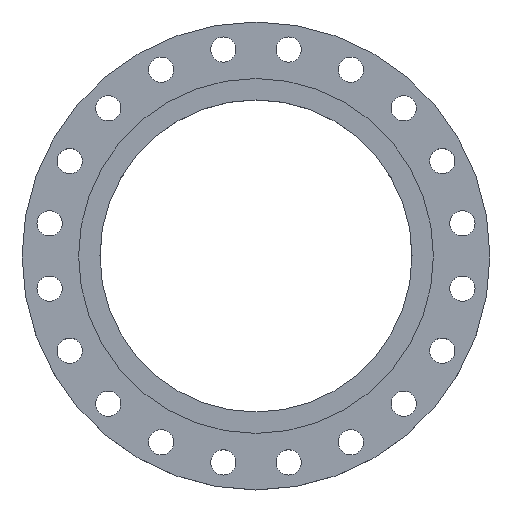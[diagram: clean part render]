
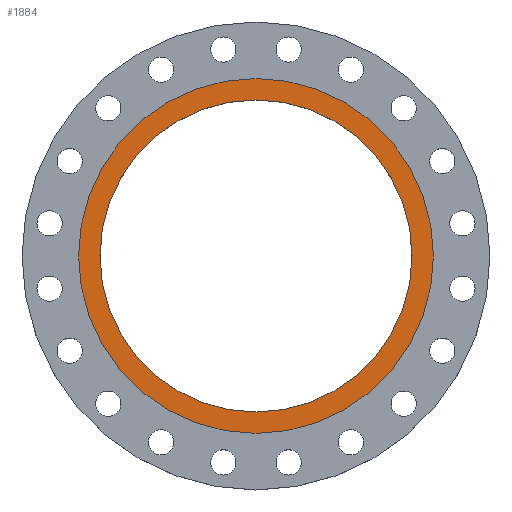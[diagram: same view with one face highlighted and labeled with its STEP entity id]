
A CAD part, top view. The second image highlights one B-rep face of the part: STEP entity #1884.
In plain terms, the highlighted planar face has unit normal (0, 0, 1).
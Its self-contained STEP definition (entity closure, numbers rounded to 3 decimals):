
#119 = DIRECTION ( 'NONE',  ( 1., 0., 0. ) ) ;
#120 = DIRECTION ( 'NONE',  ( 0., 0., 1. ) ) ;
#121 = CARTESIAN_POINT ( 'NONE',  ( 0., 0., 0. ) ) ;
#122 = PLANE ( 'NONE',  #1590 ) ;
#124 = FACE_OUTER_BOUND ( 'NONE', #1704, .T. ) ;
#126 = FACE_BOUND ( 'NONE', #1334, .T. ) ;
#128 = CARTESIAN_POINT ( 'NONE',  ( 337.5, 0., 0. ) ) ;
#142 = CARTESIAN_POINT ( 'NONE',  ( 296.752, 0., 0. ) ) ;
#235 = CARTESIAN_POINT ( 'NONE',  ( -296.752, 0., 0. ) ) ;
#259 = DIRECTION ( 'NONE',  ( 1., 0., 0. ) ) ;
#260 = DIRECTION ( 'NONE',  ( 0., 0., 1. ) ) ;
#262 = CARTESIAN_POINT ( 'NONE',  ( 0., 0., 0. ) ) ;
#297 = EDGE_CURVE ( 'NONE', #1864, #1739, #432, .T. ) ;
#390 = DIRECTION ( 'NONE',  ( -1., 0., 0. ) ) ;
#391 = DIRECTION ( 'NONE',  ( 0., 0., -1. ) ) ;
#394 = CARTESIAN_POINT ( 'NONE',  ( 0., 0., 0. ) ) ;
#432 = CIRCLE ( 'NONE', #441, 296.752 ) ;
#441 = AXIS2_PLACEMENT_3D ( 'NONE', #1018, #1017, #1016 ) ;
#521 = DIRECTION ( 'NONE',  ( -1., 0., 0. ) ) ;
#522 = DIRECTION ( 'NONE',  ( 0., 0., -1. ) ) ;
#523 = CARTESIAN_POINT ( 'NONE',  ( 0., 0., 0. ) ) ;
#647 = CARTESIAN_POINT ( 'NONE',  ( -337.5, 0., 0. ) ) ;
#1016 = DIRECTION ( 'NONE',  ( 1., 0., 0. ) ) ;
#1017 = DIRECTION ( 'NONE',  ( 0., 0., 1. ) ) ;
#1018 = CARTESIAN_POINT ( 'NONE',  ( 0., 0., 0. ) ) ;
#1161 = VERTEX_POINT ( 'NONE', #647 ) ;
#1236 = AXIS2_PLACEMENT_3D ( 'NONE', #262, #260, #259 ) ;
#1243 = ORIENTED_EDGE ( 'NONE', *, *, #1332, .F. ) ;
#1249 = ORIENTED_EDGE ( 'NONE', *, *, #1489, .F. ) ;
#1251 = ORIENTED_EDGE ( 'NONE', *, *, #1701, .F. ) ;
#1252 = ORIENTED_EDGE ( 'NONE', *, *, #297, .F. ) ;
#1332 = EDGE_CURVE ( 'NONE', #1876, #1161, #1502, .T. ) ;
#1334 = EDGE_LOOP ( 'NONE', ( #1252, #1251 ) ) ;
#1477 = CIRCLE ( 'NONE', #1236, 296.752 ) ;
#1489 = EDGE_CURVE ( 'NONE', #1161, #1876, #1583, .T. ) ;
#1502 = CIRCLE ( 'NONE', #1505, 337.5 ) ;
#1505 = AXIS2_PLACEMENT_3D ( 'NONE', #523, #522, #521 ) ;
#1583 = CIRCLE ( 'NONE', #1589, 337.5 ) ;
#1589 = AXIS2_PLACEMENT_3D ( 'NONE', #394, #391, #390 ) ;
#1590 = AXIS2_PLACEMENT_3D ( 'NONE', #121, #120, #119 ) ;
#1701 = EDGE_CURVE ( 'NONE', #1739, #1864, #1477, .T. ) ;
#1704 = EDGE_LOOP ( 'NONE', ( #1249, #1243 ) ) ;
#1739 = VERTEX_POINT ( 'NONE', #235 ) ;
#1864 = VERTEX_POINT ( 'NONE', #142 ) ;
#1876 = VERTEX_POINT ( 'NONE', #128 ) ;
#1884 = ADVANCED_FACE ( 'NONE', ( #126, #124 ), #122, .T. ) ;
